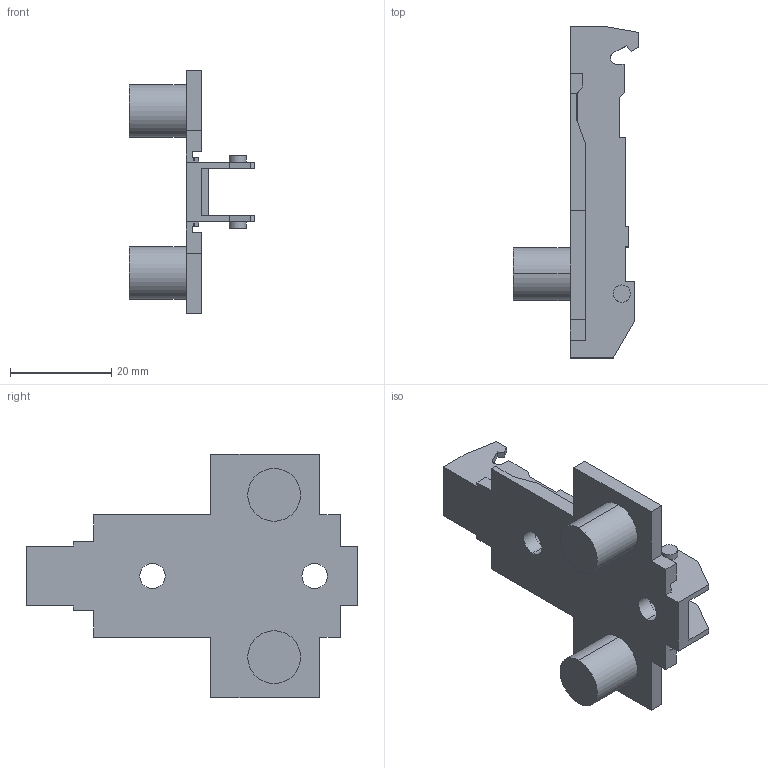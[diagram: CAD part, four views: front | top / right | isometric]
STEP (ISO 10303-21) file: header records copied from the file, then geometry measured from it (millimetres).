
FILE_DESCRIPTION (( 'STEP AP214' ), '1' );
FILE_NAME ('1D_Kreuzmontageplatte 28_32_10mm_Dübel_3.step', '2018-10-02T12:38:45', ( '' ), ( '' ), 'SwSTEP 2.0', 'SolidWorks 2017', '' );
FILE_SCHEMA (( 'AUTOMOTIVE_DESIGN' ));
Length unit declared in the file: millimetre
Products named in the file (1): 1D_Kreuzmontageplatte 28_32_10mm_Dübel_3
Bounding box: 24.7 x 65.5 x 48 mm (x, y, z)
Volume: 8513.6 mm3; surface area: 7665.6 mm2
Topology: 1 solids, 1 shells, 112 faces, 308 edges, 204 vertices
Faces by surface type: plane 86, cylinder 22, cone 4
Entity records: 3570 total; most frequent: CARTESIAN_POINT 625, ORIENTED_EDGE 616, DIRECTION 582, EDGE_CURVE 308, VECTOR 260, LINE 260, VERTEX_POINT 204, AXIS2_PLACEMENT_3D 161
